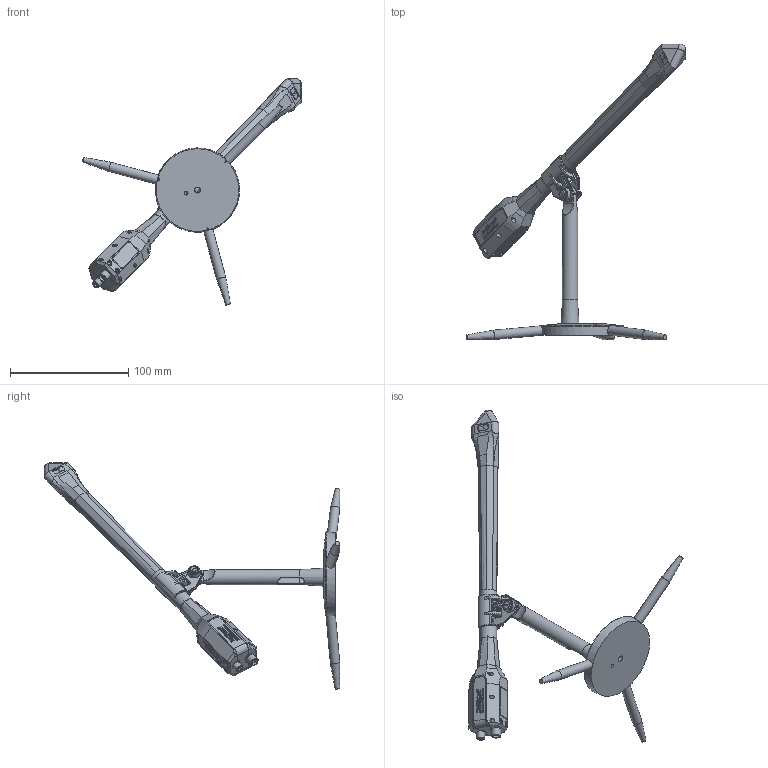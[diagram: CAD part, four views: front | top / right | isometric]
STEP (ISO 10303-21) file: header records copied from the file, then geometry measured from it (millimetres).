
FILE_DESCRIPTION(/* description */ ('Alibre Inc.'),/* implementation_level */ '2;1');
FILE_NAME(/* name */ 'export-F7DACF0B-0CFD-415C-8A2E-70D8D23AAE2F',/* time_stamp */ '2024-04-09T11:18:20+02:00',/* author */ (''),/* organization */ (''),/* preprocessor_version */ 'ST-DEVELOPER v17',/* originating_system */ 'Alibre',/* authorisation */ '');
FILE_SCHEMA (('AUTOMOTIVE_DESIGN'));
Length unit declared in the file: centimetre
Products named in the file (8): VITE_TESTA_CILINDRICA_PHILLIPS
Bounding box: 185.43 x 250 x 191.39 mm (x, y, z)
Volume: 142352.6 mm3; surface area: 47557.4 mm2
Topology: 8 solids, 8 shells, 3789 faces, 10359 edges, 6826 vertices
Faces by surface type: bspline 1915, plane 1483, cylinder 266, torus 94, sphere 17, cone 11, extrusion 3
Full cylindrical faces by diameter (mm): 2.5 x2, 3 x6, 3.2 x6, 3.242 x2, 3.8 x2, 4 x4, 4.2 x3, 4.3 x2, 4.5 x2, 4.917 x3, 4.978 x1, 6 x1, 6.5 x1, 7 x1, 8 x4, 10 x2, 12.2 x1, 13 x1, 14.4 x1
Entity records: 134371 total; most frequent: CARTESIAN_POINT 53628, ORIENTED_EDGE 20396, EDGE_CURVE 10198, DIRECTION 8941, VERTEX_POINT 6761, VECTOR 5538, LINE 5535, FACE_BOUND 4093
